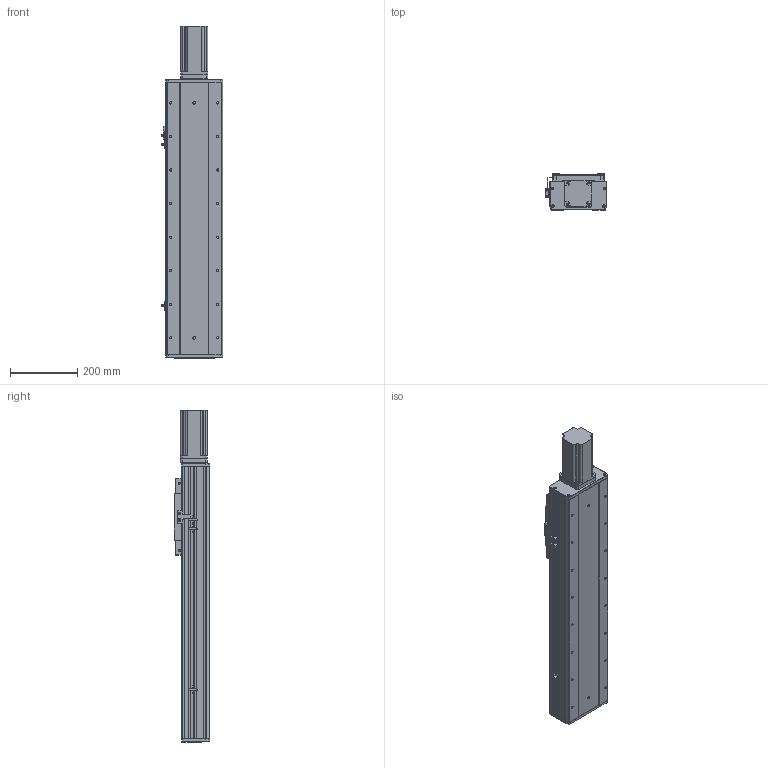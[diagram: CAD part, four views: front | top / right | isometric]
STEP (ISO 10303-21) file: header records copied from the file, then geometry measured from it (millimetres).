
FILE_DESCRIPTION (( 'STEP AP203' ), '1' );
FILE_NAME ('RY170F-L2020-300-MK.SLDASM_500.step', '2021-03-02T06:31:18', ( '盈信电脑' ), ( '东莞市道滘镇水果街19号' ), 'SwSTEP 2.0', 'SolidWorks 2012', '' );
FILE_SCHEMA (( 'CONFIG_CONTROL_DESIGN' ));
Length unit declared in the file: millimetre
Products named in the file (22): RY100F-詩湍揤踡謫; 滅袉蝶18-10; RY170F-后盖板(铝件）; RY170F-直连前盖板(铝件）; 15; 侂狟400W侜督萇儂; RY170F-丝杆铝滑块连接板; RY170F-滅鳥奻裔; RY170F-佪裝臏賑輸20蹟譫; RY170F-300眻蟀倰第奻裔啣-MK_500; RY170F-300眻蟀祥凄詩湍-MK_500; RY170F-300眻蟀倰第菁釱-MK_500; RY170F-詩湍揤踡輸; RY170F-揤踡謫假蚾粣; 滅袉蝶18-24; RY170F俋离覜茼え; 覜茼ん672; RY170F-L2020-300-MK.SLDASM_500; 侐源滅袉蝶; 怢湛750W萇儂ㄗ80遺ㄘ; 覜茼ん674; 750W萇儂梓袧蛌諉啣
Assembly tree (26 placements, depth 3):
  RY170F-L2020-300-MK.SLDASM_500
    RY170F-300眻蟀倰第菁釱-MK_500
    RY170F-300眻蟀祥凄詩湍-MK_500
    RY170F-300眻蟀倰第奻裔啣-MK_500  x2
    RY170F-滅鳥奻裔
    RY170F-佪裝臏賑輸20蹟譫
    RY170F-丝杆铝滑块连接板
    侂狟400W侜督萇儂
      15
    RY170F-直连前盖板(铝件）
    滅袉蝶18-10
    RY100F-詩湍揤踡謫
    RY170F-后盖板(铝件）
    覜茼ん672  x3
    RY170F俋离覜茼え
    RY170F-揤踡謫假蚾粣
    RY170F-詩湍揤踡輸  x2
    滅袉蝶18-24
    750W萇儂梓袧蛌諉啣
    怢湛750W萇儂ㄗ80遺ㄘ
    侐源滅袉蝶  x2
    覜茼ん674
Bounding box: 183.7 x 107 x 989 mm (x, y, z)
Volume: 5677110.1 mm3; surface area: 1682841.2 mm2
Topology: 25 solids, 25 shells, 2220 faces, 6119 edges, 3924 vertices
Faces by surface type: plane 1001, cylinder 981, cone 220, bspline 18
Entity records: 65099 total; most frequent: CARTESIAN_POINT 12867, DIRECTION 10665, ORIENTED_EDGE 10214, EDGE_CURVE 5107, AXIS2_PLACEMENT_3D 3788, VERTEX_POINT 3344, LINE 3089, VECTOR 3089
